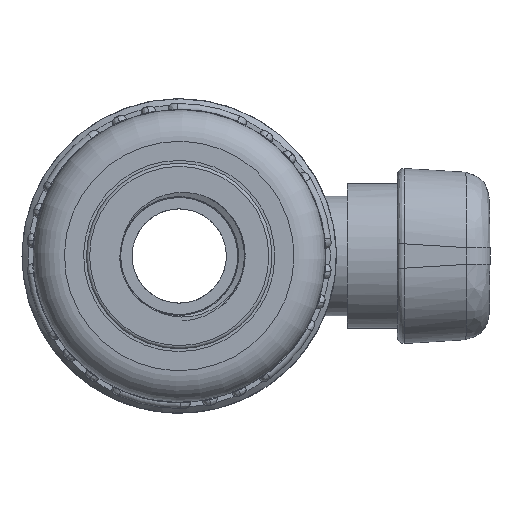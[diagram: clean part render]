
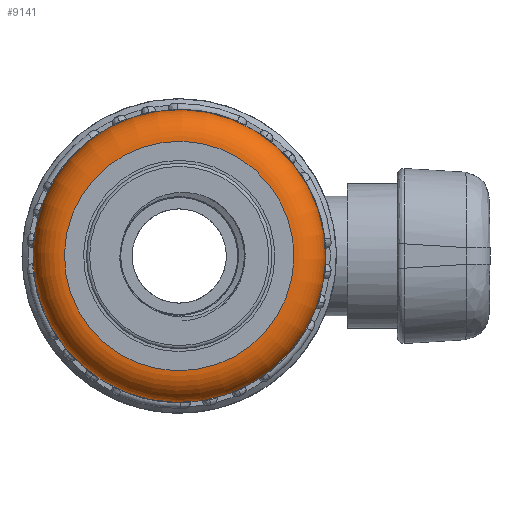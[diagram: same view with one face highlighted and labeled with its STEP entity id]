
A CAD part, front view. The second image highlights one B-rep face of the part: STEP entity #9141.
In plain terms, the highlighted toroidal (fillet/blend) face has major radius 18.25 mm and minor radius 5 mm.
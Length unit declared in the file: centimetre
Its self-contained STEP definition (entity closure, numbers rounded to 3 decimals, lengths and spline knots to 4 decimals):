
#1763=TOROIDAL_SURFACE('',#9784,1.825,0.5);
#1786=FACE_BOUND('',#2586,.T.);
#2040=FACE_OUTER_BOUND('',#2585,.T.);
#2585=EDGE_LOOP('',(#6561));
#2586=EDGE_LOOP('',(#6562));
#3130=CIRCLE('',#9782,1.825);
#3132=CIRCLE('',#9785,2.325);
#3735=VERTEX_POINT('',#38931);
#3737=VERTEX_POINT('',#38936);
#4784=EDGE_CURVE('',#3735,#3735,#3130,.T.);
#4786=EDGE_CURVE('',#3737,#3737,#3132,.T.);
#6561=ORIENTED_EDGE('',*,*,#4786,.F.);
#6562=ORIENTED_EDGE('',*,*,#4784,.T.);
#9141=ADVANCED_FACE('',(#2040,#1786),#1763,.T.);
#9782=AXIS2_PLACEMENT_3D('',#38932,#11143,#11144);
#9784=AXIS2_PLACEMENT_3D('',#38935,#11147,#11148);
#9785=AXIS2_PLACEMENT_3D('',#38937,#11149,#11150);
#11143=DIRECTION('center_axis',(0.,1.,0.));
#11144=DIRECTION('ref_axis',(0.751,0.,-0.661));
#11147=DIRECTION('center_axis',(0.,1.,0.));
#11148=DIRECTION('ref_axis',(0.661,0.,0.751));
#11149=DIRECTION('center_axis',(0.,1.,0.));
#11150=DIRECTION('ref_axis',(0.751,0.,-0.661));
#38931=CARTESIAN_POINT('',(-1.3698,-3.06,1.206));
#38932=CARTESIAN_POINT('Origin',(0.,-3.06,0.));
#38935=CARTESIAN_POINT('Origin',(0.,-2.56,0.));
#38936=CARTESIAN_POINT('',(-1.745,-2.56,1.5364));
#38937=CARTESIAN_POINT('Origin',(0.,-2.56,0.));
